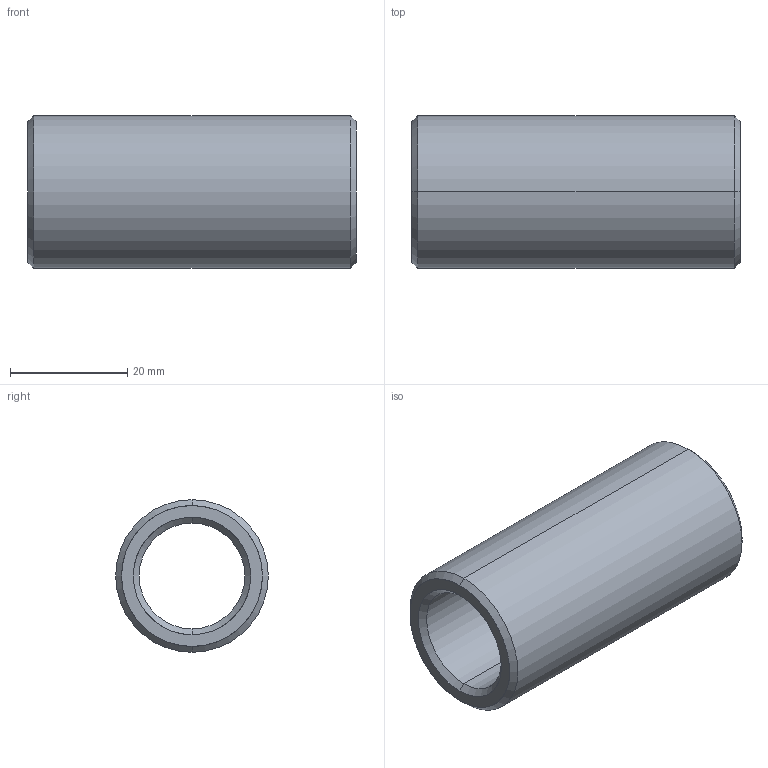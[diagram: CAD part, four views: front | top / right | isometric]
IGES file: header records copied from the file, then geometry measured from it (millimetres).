
Start section: START RECORD GO HERE.
Global section: file name: 352-18X56.igs; native system: DASSAULT SYSTEMES CATIA V5 R20 - www.3ds.com; preprocessor: CATIA Version 5 Release 20 ; author: Utente; organization: NB04-ASUS; date: 20210412.173951; units: millimetre
Bounding box: 56 x 26 x 26 mm (x, y, z)
Surface area: 8139.9 mm2 (no closed solid volume)
Topology: 0 solids, 0 shells, 14 faces, 88 edges, 88 vertices
Faces by surface type: revolution 12, plane 2
